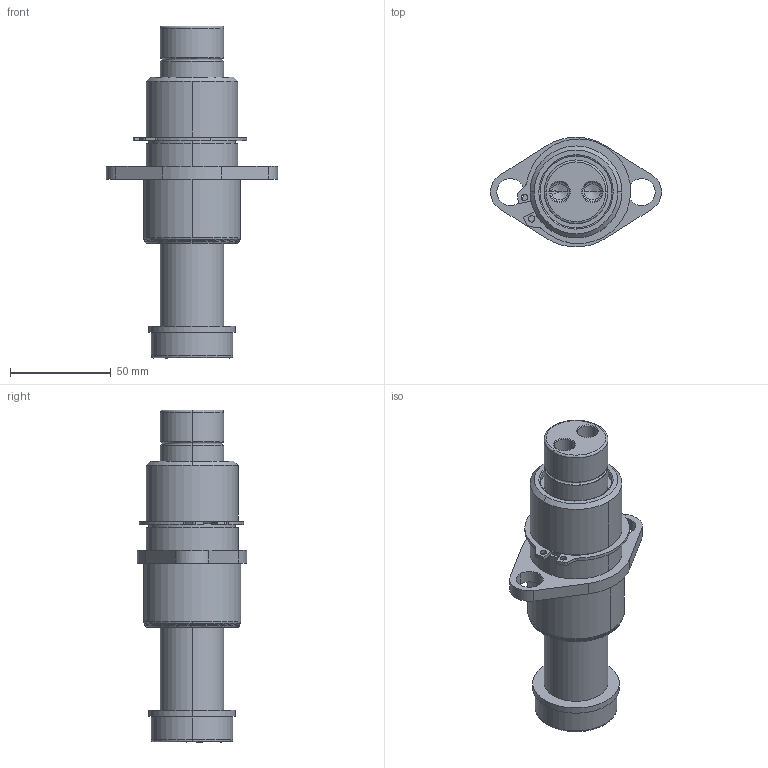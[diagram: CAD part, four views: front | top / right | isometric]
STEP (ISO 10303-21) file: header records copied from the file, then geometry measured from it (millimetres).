
FILE_DESCRIPTION (( 'STEP AP214' ), '1' );
FILE_NAME ('GK122-N3-2-TB-E-XXX.STEP', '2020-09-21T18:27:51', ( '' ), ( '' ), 'SwSTEP 2.0', 'SolidWorks 2017', '' );
FILE_SCHEMA (( 'AUTOMOTIVE_DESIGN' ));
Length unit declared in the file: inch
Products named in the file (7): RetainingRing; GK1.25-N3-2-TB-Base; GK122-E-XXX-GuidePin; GK122-N3-2-TB-E-XXX; GK122-DampeningWasher
Assembly tree (6 placements, depth 3):
  GK122-N3-2-TB-E-XXX
    GK1.25-N3-2-TB-Base
      GK1.25-N3-2-TB-Base
      RetainingRing
    GK122-E-XXX-GuidePin
      GK122-E-XXX-GuidePin
      GK122-DampeningWasher
Bounding box: 85.09 x 54.52 x 165.1 mm (x, y, z)
Volume: 215541.2 mm3; surface area: 50908.7 mm2
Topology: 4 solids, 4 shells, 123 faces, 285 edges, 174 vertices
Faces by surface type: cylinder 57, plane 24, cone 22, bspline 20
Entity records: 4276 total; most frequent: CARTESIAN_POINT 1017, DIRECTION 661, ORIENTED_EDGE 562, EDGE_CURVE 281, AXIS2_PLACEMENT_3D 276, VERTEX_POINT 174, CIRCLE 162, EDGE_LOOP 143
